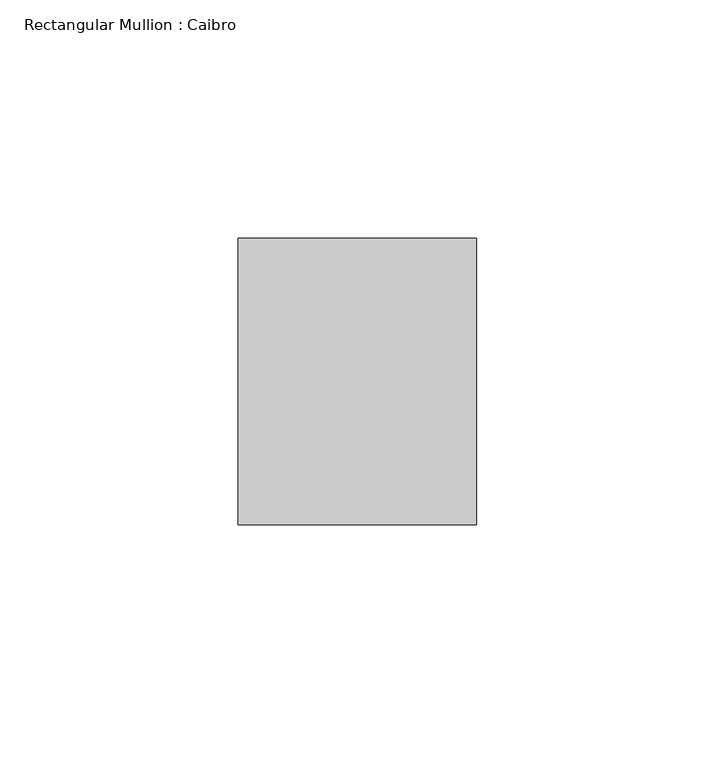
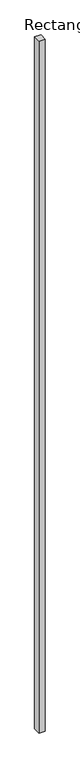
"""IFC4 building model written with IfcOpenShell, lengths in millimetres: member geometry, Rectangular Mullion : Caibro."""

from ifc_helpers import new_model, si_unit, frame, origin, place, context, project, spatial, polyline, outline, extrude, source, transform, mapped, element, save


def rectangular_mullion_caibro_64bae1af(model_context):
    return source(origin(), model_context, "Body", "SweptSolid", [
        extrude(outline(polyline([(0.0, -60.0), (-50.0, -60.0), (-50.0, 0.0), (0.0, 0.0), (0.0, -60.0)])), frame((0.0, 0.0, -5952.2956296), z_axis=(0.0, 0.0, 1.0), x_axis=(1.0, 0.0, 0.0)), (0.0, 0.0, 1.0), 5952.2956296),
    ])


if __name__ == "__main__":
    model = new_model("IFC4")
    model_context = context("Model", 3, world=origin())
    ifc_project = project(units=[si_unit("LENGTHUNIT", "METRE", prefix="MILLI")], contexts=[model_context])
    site = spatial("IfcSite", under=ifc_project)
    building = spatial("IfcBuilding", under=site)
    placement = place(None, origin())
    rectangular_mullion_caibro_shape = rectangular_mullion_caibro_64bae1af(model_context)
    element("IfcMember", 1, ObjectType="Rectangular Mullion : Caibro", at=placement, inside=building, context=model_context, shape_type="MappedRepresentation", body=[
        mapped(rectangular_mullion_caibro_shape, transform((0.0, 0.0, 0.0), x_axis=(1.0, 0.0, 0.0), y_axis=(0.0, 1.0, 0.0), z_axis=(0.0, 0.0, 1.0))),
    ])
    save(model, "model.ifc")
